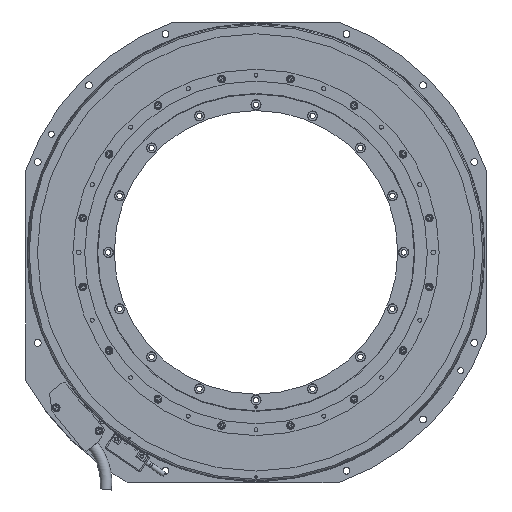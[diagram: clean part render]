
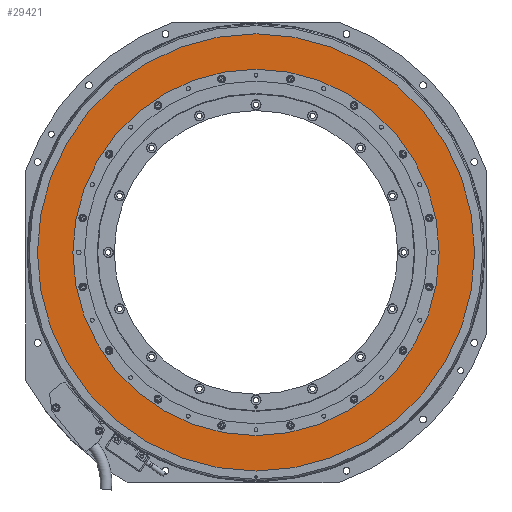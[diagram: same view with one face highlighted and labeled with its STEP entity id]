
A CAD part, front view. The second image highlights one B-rep face of the part: STEP entity #29421.
In plain terms, the highlighted planar face has unit normal (0, -1, 0).
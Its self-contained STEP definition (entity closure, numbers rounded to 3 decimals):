
#94 = DIRECTION ( 'NONE',  ( 1., 0., 0. ) ) ;
#273 = ORIENTED_EDGE ( 'NONE', *, *, #31849, .T. ) ;
#766 = CIRCLE ( 'NONE', #32769, 185. ) ;
#2354 = DIRECTION ( 'NONE',  ( 0., 1., 0. ) ) ;
#2620 = AXIS2_PLACEMENT_3D ( 'NONE', #18004, #2354, #94 ) ;
#3709 = VERTEX_POINT ( 'NONE', #13194 ) ;
#6736 = EDGE_CURVE ( 'NONE', #3709, #7704, #17718, .T. ) ;
#7704 = VERTEX_POINT ( 'NONE', #21524 ) ;
#8602 = CARTESIAN_POINT ( 'NONE',  ( 0., -1.5, 0. ) ) ;
#10533 = CARTESIAN_POINT ( 'NONE',  ( -155., -1.5, 0. ) ) ;
#12064 = CARTESIAN_POINT ( 'NONE',  ( 0., -1.5, 0. ) ) ;
#12152 = ORIENTED_EDGE ( 'NONE', *, *, #6736, .F. ) ;
#13194 = CARTESIAN_POINT ( 'NONE',  ( 185., -1.5, 0. ) ) ;
#13818 = DIRECTION ( 'NONE',  ( 0., 1., 0. ) ) ;
#14148 = CARTESIAN_POINT ( 'NONE',  ( 0., -1.5, 0. ) ) ;
#14922 = DIRECTION ( 'NONE',  ( 1., 0., 0. ) ) ;
#16382 = CARTESIAN_POINT ( 'NONE',  ( 155., -1.5, 0. ) ) ;
#17085 = PLANE ( 'NONE',  #30865 ) ;
#17295 = DIRECTION ( 'NONE',  ( 0., 1., 0. ) ) ;
#17571 = DIRECTION ( 'NONE',  ( 0., 1., 0. ) ) ;
#17718 = CIRCLE ( 'NONE', #32024, 185. ) ;
#18004 = CARTESIAN_POINT ( 'NONE',  ( 0., -1.5, 0. ) ) ;
#18793 = DIRECTION ( 'NONE',  ( 1., 0., 0. ) ) ;
#19111 = CIRCLE ( 'NONE', #2620, 155. ) ;
#20399 = EDGE_LOOP ( 'NONE', ( #273, #32975 ) ) ;
#21524 = CARTESIAN_POINT ( 'NONE',  ( -185., -1.5, 0. ) ) ;
#22436 = CIRCLE ( 'NONE', #31570, 155. ) ;
#23346 = FACE_OUTER_BOUND ( 'NONE', #25243, .T. ) ;
#23677 = VERTEX_POINT ( 'NONE', #10533 ) ;
#24215 = DIRECTION ( 'NONE',  ( 1., 0., 0. ) ) ;
#25243 = EDGE_LOOP ( 'NONE', ( #12152, #26454 ) ) ;
#26454 = ORIENTED_EDGE ( 'NONE', *, *, #33176, .F. ) ;
#28230 = VERTEX_POINT ( 'NONE', #16382 ) ;
#29412 = DIRECTION ( 'NONE',  ( 0., 1., 0. ) ) ;
#29421 = ADVANCED_FACE ( 'NONE', ( #23346, #33007 ), #17085, .F. ) ;
#30188 = CARTESIAN_POINT ( 'NONE',  ( -155., -1.5, 0. ) ) ;
#30865 = AXIS2_PLACEMENT_3D ( 'NONE', #30188, #17295, #14922 ) ;
#31020 = EDGE_CURVE ( 'NONE', #23677, #28230, #22436, .T. ) ;
#31570 = AXIS2_PLACEMENT_3D ( 'NONE', #8602, #13818, #24215 ) ;
#31849 = EDGE_CURVE ( 'NONE', #28230, #23677, #19111, .T. ) ;
#32024 = AXIS2_PLACEMENT_3D ( 'NONE', #14148, #29412, #18793 ) ;
#32714 = DIRECTION ( 'NONE',  ( 1., 0., 0. ) ) ;
#32769 = AXIS2_PLACEMENT_3D ( 'NONE', #12064, #17571, #32714 ) ;
#32975 = ORIENTED_EDGE ( 'NONE', *, *, #31020, .T. ) ;
#33007 = FACE_BOUND ( 'NONE', #20399, .T. ) ;
#33176 = EDGE_CURVE ( 'NONE', #7704, #3709, #766, .T. ) ;
